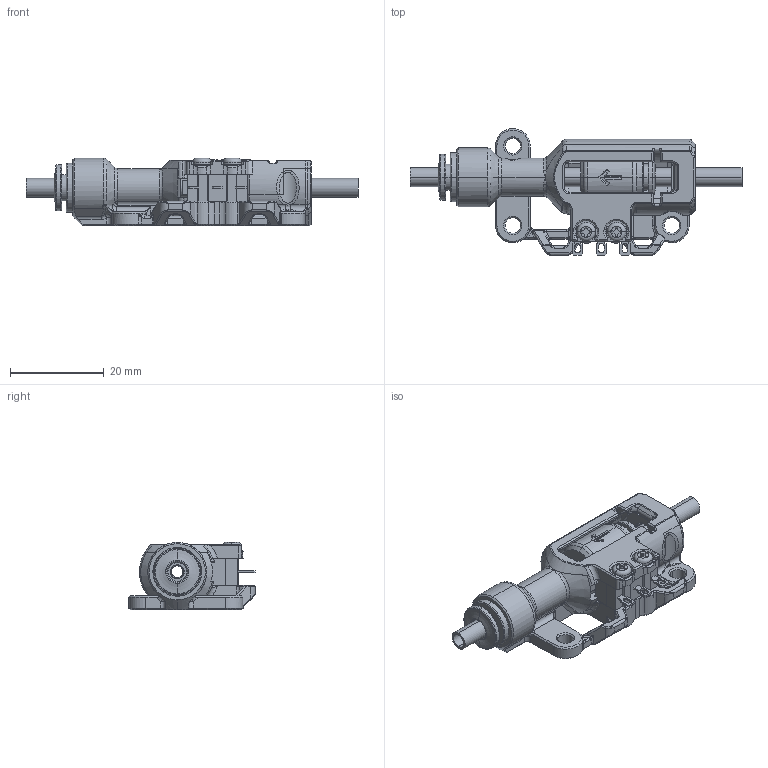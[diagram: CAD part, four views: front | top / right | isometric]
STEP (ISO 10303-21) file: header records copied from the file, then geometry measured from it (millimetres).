
FILE_DESCRIPTION (( 'STEP AP214' ), '1' );
FILE_NAME ('Belay_ECAS04.STEP', '2024-01-15T09:30:42', ( '' ), ( '' ), 'SwSTEP 2.0', 'SolidWorks 2022', '' );
FILE_SCHEMA (( 'AUTOMOTIVE_DESIGN' ));
Length unit declared in the file: millimetre
Products named in the file (12): Omron D2F Plunger; pan head tapping screw_am_PHT 2x13x12.2-type I-D-N; Omron D2F Body; Omron D2F Mockup_D2F-L-D3 (Operating Position); ECAS04 Mockup; Bowden Tube - Inlet^Extruder Sync Sensor; Cover^Extruder Sync Sensor; Omron D2F Lever; Bowden Tube - Outlet^Extruder Sync Sensor; Sensor Housing^Extruder Sync Sensor_ECAS04; Slider^Extruder Sync Sensor_ECAS04; Belay_ECAS04
Assembly tree (13 placements, depth 3):
  Belay_ECAS04
    Omron D2F Mockup_D2F-L-D3 (Operating Position)
      Omron D2F Body
      Omron D2F Plunger
      Omron D2F Lever
    Slider^Extruder Sync Sensor_ECAS04
    Sensor Housing^Extruder Sync Sensor_ECAS04
    Cover^Extruder Sync Sensor
    Bowden Tube - Inlet^Extruder Sync Sensor
    Bowden Tube - Outlet^Extruder Sync Sensor
    pan head tapping screw_am_PHT 2x13x12.2-type I-D-N  x2
    ECAS04 Mockup  x2
Bounding box: 71 x 27.1 x 14.4 mm (x, y, z)
Volume: 8213.3 mm3; surface area: 10128.2 mm2
Topology: 15 solids, 15 shells, 1623 faces, 3993 edges, 2349 vertices
Faces by surface type: plane 468, cylinder 438, bspline 323, cone 199, torus 183, sphere 12
Entity records: 56669 total; most frequent: CARTESIAN_POINT 22178, ORIENTED_EDGE 7514, DIRECTION 6514, EDGE_CURVE 3757, AXIS2_PLACEMENT_3D 2512, VERTEX_POINT 2242, EDGE_LOOP 1595, ADVANCED_FACE 1546
